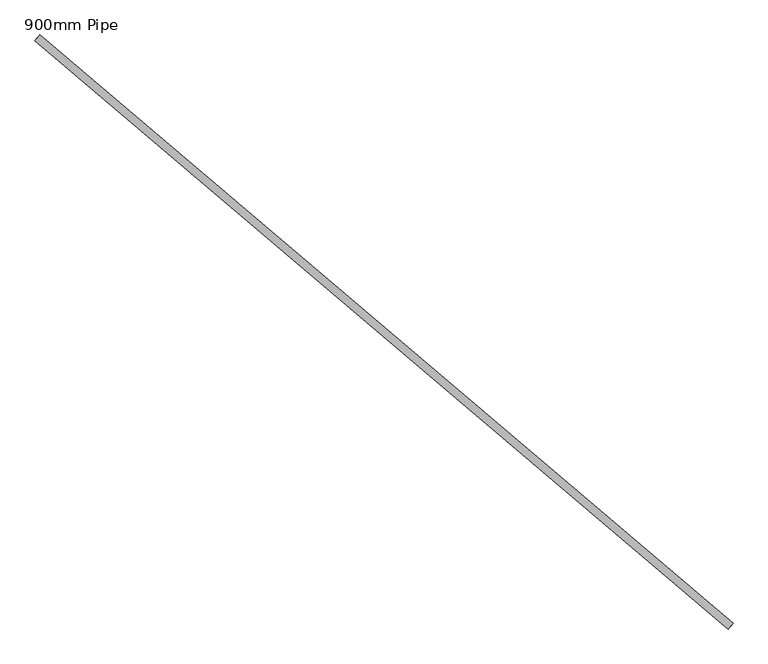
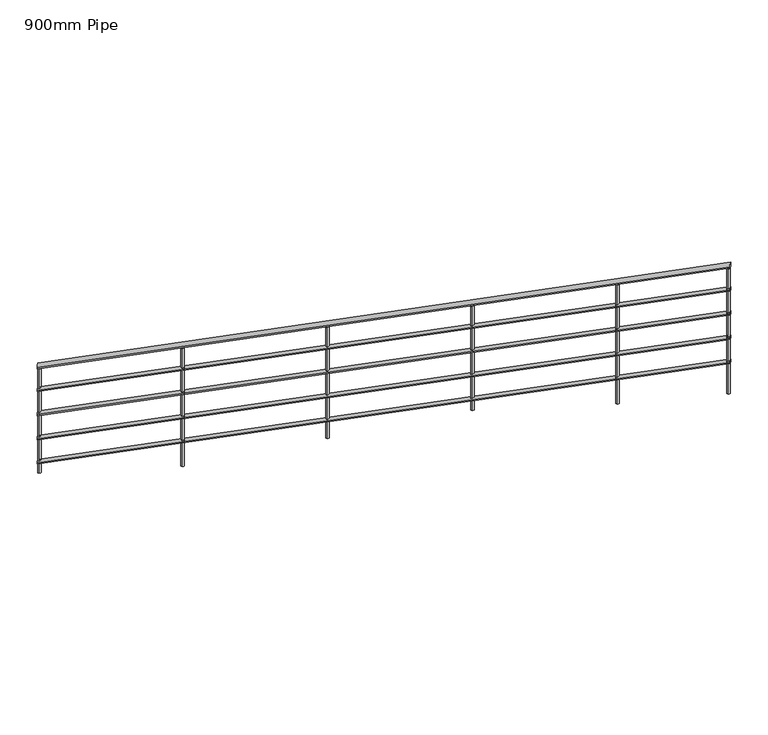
"""IFC4 building model written with IfcOpenShell, lengths in millimetres: railing geometry, 900mm Pipe."""

import ifcopenshell
import ifcopenshell.guid

model = None  # the IFC model being written
_history = None  # IfcOwnerHistory: only IFC2X3 demands one
_inside = {}  # id of a spatial element -> (the spatial element, [elements in it])
_under = {}  # id of a project, library or spatial element -> (it, [spatial elements below it])
_declared = {}  # id of a project -> (the project, [libraries it declares])
_typed = {}  # id of a type object -> (the type object, [elements of that type])
_made_of = {}  # id of a material, layer set ... -> (it, [elements and type objects made of it])


def new_model(schema):
    """Start an empty IFC model of exactly this schema.

    Asked for "IFC4X3", IfcOpenShell would pick the latest addendum, in which some entities
    have other attributes; the version numbers below select the first issue.
    IFC2X3 requires an IfcOwnerHistory on every rooted entity: one is made here for all.
    """
    global model, _history
    if schema == "IFC4X3":
        model = ifcopenshell.file(schema_version=(4, 3, 0, 0))
    else:
        model = ifcopenshell.file(schema=schema)
    _inside.clear()
    _under.clear()
    _declared.clear()
    _typed.clear()
    _made_of.clear()
    _history = None
    if model.schema == "IFC2X3":
        org = make("IfcOrganization", Name="unknown")
        user = make(
            "IfcPersonAndOrganization",
            ThePerson=make("IfcPerson", FamilyName="unknown"),
            TheOrganization=org,
        )
        app = make(
            "IfcApplication",
            ApplicationDeveloper=org,
            Version="unknown",
            ApplicationFullName="unknown",
            ApplicationIdentifier="unknown",
        )
        _history = make(
            "IfcOwnerHistory",
            OwningUser=user,
            OwningApplication=app,
            ChangeAction="ADDED",
            CreationDate=0,
        )
    return model


def make(cls, **values):
    """One entity of the class cls with the attributes given. An attribute that is None is left unset."""
    return model.create_entity(
        cls, **{name: value for name, value in values.items() if value is not None}
    )


def rooted(cls, **values):
    """An entity with a GlobalId (a new one), such as an element, a storey or a relation."""
    return make(cls, GlobalId=ifcopenshell.guid.new(), OwnerHistory=_history, **values)


def si_unit(unit_type, name, prefix=None):
    """IfcSIUnit, for example si_unit("LENGTHUNIT", "METRE", prefix="MILLI")."""
    return make("IfcSIUnit", UnitType=unit_type, Prefix=prefix, Name=name)


def assignment(units):
    """IfcUnitAssignment: the units of a project."""
    return None if units is None else make("IfcUnitAssignment", Units=units)


def point(xyz):
    """IfcCartesianPoint."""
    return None if xyz is None else make("IfcCartesianPoint", Coordinates=xyz)


def direction(xyz):
    """IfcDirection."""
    return None if xyz is None else make("IfcDirection", DirectionRatios=xyz)


def frame(location, z_axis=None, x_axis=None):
    """IfcAxis2Placement3D, a coordinate frame: its origin and axes. An axis left out is left unset."""
    return make(
        "IfcAxis2Placement3D",
        Location=point(location),
        Axis=direction(z_axis),
        RefDirection=direction(x_axis),
    )


def origin():
    """The frame at (0, 0, 0) with its axes left unset."""
    return frame((0.0, 0.0, 0.0))


def place(relative_to, where):
    """IfcLocalPlacement: puts the frame where relative to a parent placement (None: the world)."""
    return make(
        "IfcLocalPlacement", PlacementRelTo=relative_to, RelativePlacement=where
    )


def context(
    kind, dimensions, precision=None, world=None, true_north=None, identifier=None
):
    """IfcGeometricRepresentationContext, for example the 3D "Model" context."""
    return make(
        "IfcGeometricRepresentationContext",
        ContextIdentifier=identifier,
        ContextType=kind,
        CoordinateSpaceDimension=dimensions,
        Precision=precision,
        WorldCoordinateSystem=world,
        TrueNorth=true_north,
    )


def project(units=None, contexts=None):
    """IfcProject with its units and contexts."""
    return rooted(
        "IfcProject",
        Name="project",
        RepresentationContexts=contexts,
        UnitsInContext=assignment(units),
    )


def spatial(cls, under=None, at=None, **own):
    """A site, building, storey or space (cls), placed at a placement, below another one or the project."""
    s = rooted(cls, ObjectPlacement=at, **own)
    if under is not None:
        _under.setdefault(under.id(), (under, []))[1].append(s)
    return s


def circle_curve(where, radius):
    """IfcCircle in the frame where."""
    return make("IfcCircle", Position=where, Radius=radius)


def ellipse_curve(where, semi_axis1, semi_axis2):
    """IfcEllipse in the frame where."""
    return make(
        "IfcEllipse", Position=where, SemiAxis1=semi_axis1, SemiAxis2=semi_axis2
    )


def shape(context_of_items, identifier, shape_type, items):
    """IfcShapeRepresentation: the items that make up one representation, for example the "Body"."""
    return make(
        "IfcShapeRepresentation",
        ContextOfItems=context_of_items,
        RepresentationIdentifier=identifier,
        RepresentationType=shape_type,
        Items=items,
    )


def source(mapping_origin, context_of_items, identifier, shape_type, items):
    """IfcRepresentationMap: a shape defined once, which mapped items show again and again."""
    return make(
        "IfcRepresentationMap",
        MappingOrigin=mapping_origin,
        MappedRepresentation=shape(context_of_items, identifier, shape_type, items),
    )


def transform(
    local_origin,
    x_axis=None,
    y_axis=None,
    z_axis=None,
    scale=None,
    scale2=None,
    scale3=None,
    uniform=True,
):
    """IfcCartesianTransformationOperator3D, or its non-uniform kind. x_axis, y_axis, z_axis: its Axis1, 2, 3."""
    if uniform:
        return make(
            "IfcCartesianTransformationOperator3D",
            Axis1=direction(x_axis),
            Axis2=direction(y_axis),
            LocalOrigin=point(local_origin),
            Scale=scale,
            Axis3=direction(z_axis),
        )
    return make(
        "IfcCartesianTransformationOperator3DnonUniform",
        Axis1=direction(x_axis),
        Axis2=direction(y_axis),
        LocalOrigin=point(local_origin),
        Scale=scale,
        Axis3=direction(z_axis),
        Scale2=scale2,
        Scale3=scale3,
    )


def mapped(mapping_source, mapping_target):
    """IfcMappedItem: shows the shape of a source again, moved by a transform."""
    return make(
        "IfcMappedItem", MappingSource=mapping_source, MappingTarget=mapping_target
    )


def made_of(thing, what):
    """Note that an element or type object is made of a material, layer set ...; save() writes the relation."""
    if what is not None:
        _made_of.setdefault(what.id(), (what, []))[1].append(thing)
    return thing


def element(
    cls,
    number,
    at=None,
    inside=None,
    cuts=None,
    type_object=None,
    material=None,
    context=None,
    identifier="Body",
    shape_type=None,
    held_by="IfcProductDefinitionShape",
    body=None,
    shapes=None,
    **own,
):
    """One element of the class cls, such as IfcWall. Its Tag is "e" and its number.

    at: its placement. inside: the storey or other place that contains it. cuts: it is an
    opening in that element (IfcRelVoidsElement). A single representation is given by context,
    identifier, shape_type and body (its items); several are given by shapes. held_by: the class
    of the entity that holds the representations. save() writes the other relations.
    """
    e = rooted(cls, Tag="e%d" % number, ObjectPlacement=at, **own)
    if body is not None:
        shapes = [shape(context, identifier, shape_type, body)]
    if shapes is not None:
        e.Representation = make(held_by, Representations=shapes)
    if inside is not None:
        _inside.setdefault(inside.id(), (inside, []))[1].append(e)
    if cuts is not None:
        rooted(
            "IfcRelVoidsElement", RelatingBuildingElement=cuts, RelatedOpeningElement=e
        )
    if type_object is not None:
        _typed.setdefault(type_object.id(), (type_object, []))[1].append(e)
    return made_of(e, material)


def aggregate(whole, parts):
    """IfcRelAggregates: a whole, such as a stair, and the parts it consists of."""
    return rooted("IfcRelAggregates", RelatingObject=whole, RelatedObjects=parts)


def save(model, path):
    """Write the relations noted so far, then the file.

    IfcRelAggregates (storeys below a building ...), IfcRelContainedInSpatialStructure (elements
    in a storey), IfcRelDefinesByType, IfcRelAssociatesMaterial and IfcRelDeclares: one each for
    every whole, place, type object, material and project.
    """
    for whole, parts in _under.values():
        aggregate(whole, parts)
    for where, things in _inside.values():
        rooted(
            "IfcRelContainedInSpatialStructure",
            RelatedElements=things,
            RelatingStructure=where,
        )
    for kind, things in _typed.values():
        rooted("IfcRelDefinesByType", RelatedObjects=things, RelatingType=kind)
    for what, things in _made_of.values():
        rooted("IfcRelAssociatesMaterial", RelatedObjects=things, RelatingMaterial=what)
    for by, libraries in _declared.values():
        rooted("IfcRelDeclares", RelatingContext=by, RelatedDefinitions=libraries)
    model.write(path)


def plane_surface(at):
    """IfcPlane: the flat surface through the origin of the frame at, square to its z axis."""
    return make("IfcPlane", Position=at)


def cylinder_surface(at, radius):
    """IfcCylindricalSurface: all points at the distance radius from the z axis of the frame at."""
    return make("IfcCylindricalSurface", Position=at, Radius=radius)


def advanced_brep(points, edges, surfaces, faces):
    """IfcAdvancedBrep: a solid bounded by faces that lie on surfaces and meet in shared edges.

    An edge is (start, end): straight between two places in points (the first is 0);
    or (start, end, curve); or (start, end, curve, False) where it runs against its curve.
    A face is (place in surfaces, loops), or (place, loops, False) where it looks against
    its surface's normal. A loop lists edges by number (the first is 1), with a minus sign
    where the edge is run from its end to its start. The first loop is the outer one.
    """
    corners = [point(p) for p in points]
    vertices = [make("IfcVertexPoint", VertexGeometry=c) for c in corners]
    made = []
    for start, end, *more in edges:
        made.append(
            make(
                "IfcEdgeCurve",
                EdgeStart=vertices[start],
                EdgeEnd=vertices[end],
                EdgeGeometry=more[0] if more else make("IfcPolyline", Points=[corners[start], corners[end]]),
                SameSense=more[1] if len(more) > 1 else True,
            )
        )
    hull = []
    for where, loops, *sense in faces:
        bounds = []
        for j, loop in enumerate(loops):
            ring = [make("IfcOrientedEdge", EdgeElement=made[abs(k) - 1], Orientation=k > 0) for k in loop]
            bounds.append(
                make(
                    "IfcFaceOuterBound" if j == 0 else "IfcFaceBound",
                    Bound=make("IfcEdgeLoop", EdgeList=ring),
                    Orientation=True,
                )
            )
        hull.append(make("IfcAdvancedFace", Bounds=bounds, FaceSurface=surfaces[where], SameSense=sense[0] if sense else True))
    return make("IfcAdvancedBrep", Outer=make("IfcClosedShell", CfsFaces=hull))


def railing_900mm_pipe_515d095b(model_context):
    return source(origin(), model_context, "Body", "AdvancedBrep", [
        advanced_brep(
        [(913965.1870936, -4818.1169919, 7058.4124918), (913939.2931186, -4848.6047281, 7058.4124918), (917607.2292408, -7911.391869, 8492.765433), (917581.3352658, -7941.8796051, 8492.765433)],
        [
            (0, 1, ellipse_curve(frame((913952.2401061, -4833.36086, 7058.4124918), z_axis=(-0.7621934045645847, 0.6473493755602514, 0.0), x_axis=(0.0, 0.0, -1.0)), 20.8816259, 20.0)),
            (1, 0, ellipse_curve(frame((913952.2401061, -4833.36086, 7058.4124918), z_axis=(-0.7621934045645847, 0.6473493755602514, 0.0), x_axis=(0.0, 0.0, -1.0)), 20.8816259, 20.0)),
            (2, 3, ellipse_curve(frame((917594.2822533, -7926.6357371, 8492.765433), z_axis=(0.7621934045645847, -0.6473493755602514, 0.0), x_axis=(0.0, 0.0, -1.0)), 20.8816259, 20.0)),
            (3, 2, ellipse_curve(frame((917594.2822533, -7926.6357371, 8492.765433), z_axis=(0.7621934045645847, -0.6473493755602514, 0.0), x_axis=(0.0, 0.0, -1.0)), 20.8816259, 20.0)),
            (0, 2),
            (3, 1),
        ],
        [
            plane_surface(frame((913952.2401061, -4833.36086, 7079.2941176), z_axis=(-0.7621934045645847, 0.6473493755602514, 0.0), x_axis=(0.6473493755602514, 0.7621934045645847, 0.0))),
            plane_surface(frame((917594.2822533, -7926.6357371, 8513.6470588), z_axis=(0.7621934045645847, -0.6473493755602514, 0.0), x_axis=(0.6473493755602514, 0.7621934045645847, 0.0))),
            cylinder_surface(frame((913956.6227594, -4837.0831539, 7060.1385211), z_axis=(-0.7300134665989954, 0.620018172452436, -0.2875027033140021), x_axis=(-0.6473493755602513, -0.7621934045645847, 0.0)), 20.0),
        ],
        [
            (0, [[1, 2]]),
            (1, [[3, 4]]),
            (2, [[-1, 5, -4, 6]]),
            (2, [[-2, -6, -3, -5]]),
        ],
    ),
        advanced_brep(
        [(913961.9503467, -4821.9279589, 6863.6328982), (913942.5298654, -4844.7937611, 6863.6328982), (917603.9924939, -7915.202836, 8297.9858394), (917584.5720127, -7938.0686381, 8297.9858394)],
        [
            (0, 1, ellipse_curve(frame((913952.2401061, -4833.36086, 6863.6328982), z_axis=(-0.7621934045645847, 0.6473493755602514, 0.0), x_axis=(0.0, 0.0, -1.0)), 15.6612194, 15.0)),
            (1, 0, ellipse_curve(frame((913952.2401061, -4833.36086, 6863.6328982), z_axis=(-0.7621934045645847, 0.6473493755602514, 0.0), x_axis=(0.0, 0.0, -1.0)), 15.6612194, 15.0)),
            (2, 3, ellipse_curve(frame((917594.2822533, -7926.6357371, 8297.9858394), z_axis=(0.7621934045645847, -0.6473493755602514, 0.0), x_axis=(0.0, 0.0, -1.0)), 15.6612194, 15.0)),
            (3, 2, ellipse_curve(frame((917594.2822533, -7926.6357371, 8297.9858394), z_axis=(0.7621934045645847, -0.6473493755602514, 0.0), x_axis=(0.0, 0.0, -1.0)), 15.6612194, 15.0)),
            (0, 2),
            (3, 1),
        ],
        [
            plane_surface(frame((913952.2401061, -4833.36086, 6879.2941176), z_axis=(-0.7621934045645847, 0.6473493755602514, 0.0), x_axis=(0.6473493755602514, 0.7621934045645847, 0.0))),
            plane_surface(frame((917594.2822533, -7926.6357371, 8313.6470588), z_axis=(0.7621934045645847, -0.6473493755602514, 0.0), x_axis=(0.6473493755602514, 0.7621934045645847, 0.0))),
            cylinder_surface(frame((913955.527096, -4836.1525804, 6864.9274203), z_axis=(-0.7300134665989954, 0.620018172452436, -0.2875027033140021), x_axis=(-0.6473493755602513, -0.7621934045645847, 0.0)), 15.0),
        ],
        [
            (0, [[1, 2]]),
            (1, [[3, 4]]),
            (2, [[-1, 5, -4, 6]]),
            (2, [[-2, -6, -3, -5]]),
        ],
    ),
        advanced_brep(
        [(913961.9503467, -4821.9279589, 6663.6328982), (913942.5298654, -4844.7937611, 6663.6328982), (917603.9924939, -7915.202836, 8097.9858394), (917584.5720127, -7938.0686381, 8097.9858394)],
        [
            (0, 1, ellipse_curve(frame((913952.2401061, -4833.36086, 6663.6328982), z_axis=(-0.7621934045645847, 0.6473493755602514, 0.0), x_axis=(0.0, 0.0, -1.0)), 15.6612194, 15.0)),
            (1, 0, ellipse_curve(frame((913952.2401061, -4833.36086, 6663.6328982), z_axis=(-0.7621934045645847, 0.6473493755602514, 0.0), x_axis=(0.0, 0.0, -1.0)), 15.6612194, 15.0)),
            (2, 3, ellipse_curve(frame((917594.2822533, -7926.6357371, 8097.9858394), z_axis=(0.7621934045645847, -0.6473493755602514, 0.0), x_axis=(0.0, 0.0, -1.0)), 15.6612194, 15.0)),
            (3, 2, ellipse_curve(frame((917594.2822533, -7926.6357371, 8097.9858394), z_axis=(0.7621934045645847, -0.6473493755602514, 0.0), x_axis=(0.0, 0.0, -1.0)), 15.6612194, 15.0)),
            (0, 2),
            (3, 1),
        ],
        [
            plane_surface(frame((913952.2401061, -4833.36086, 6679.2941176), z_axis=(-0.7621934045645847, 0.6473493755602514, 0.0), x_axis=(0.6473493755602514, 0.7621934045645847, 0.0))),
            plane_surface(frame((917594.2822533, -7926.6357371, 8113.6470588), z_axis=(0.7621934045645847, -0.6473493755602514, 0.0), x_axis=(0.6473493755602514, 0.7621934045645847, 0.0))),
            cylinder_surface(frame((913955.527096, -4836.1525804, 6664.9274203), z_axis=(-0.7300134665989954, 0.620018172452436, -0.2875027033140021), x_axis=(-0.6473493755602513, -0.7621934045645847, 0.0)), 15.0),
        ],
        [
            (0, [[1, 2]]),
            (1, [[3, 4]]),
            (2, [[-1, 5, -4, 6]]),
            (2, [[-2, -6, -3, -5]]),
        ],
    ),
        advanced_brep(
        [(913961.9503467, -4821.9279589, 6463.6328982), (913942.5298654, -4844.7937611, 6463.6328982), (917603.9924939, -7915.202836, 7897.9858394), (917584.5720127, -7938.0686381, 7897.9858394)],
        [
            (0, 1, ellipse_curve(frame((913952.2401061, -4833.36086, 6463.6328982), z_axis=(-0.7621934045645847, 0.6473493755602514, 0.0), x_axis=(0.0, 0.0, -1.0)), 15.6612194, 15.0)),
            (1, 0, ellipse_curve(frame((913952.2401061, -4833.36086, 6463.6328982), z_axis=(-0.7621934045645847, 0.6473493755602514, 0.0), x_axis=(0.0, 0.0, -1.0)), 15.6612194, 15.0)),
            (2, 3, ellipse_curve(frame((917594.2822533, -7926.6357371, 7897.9858394), z_axis=(0.7621934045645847, -0.6473493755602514, 0.0), x_axis=(0.0, 0.0, -1.0)), 15.6612194, 15.0)),
            (3, 2, ellipse_curve(frame((917594.2822533, -7926.6357371, 7897.9858394), z_axis=(0.7621934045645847, -0.6473493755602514, 0.0), x_axis=(0.0, 0.0, -1.0)), 15.6612194, 15.0)),
            (0, 2),
            (3, 1),
        ],
        [
            plane_surface(frame((913952.2401061, -4833.36086, 6479.2941176), z_axis=(-0.7621934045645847, 0.6473493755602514, 0.0), x_axis=(0.6473493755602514, 0.7621934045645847, 0.0))),
            plane_surface(frame((917594.2822533, -7926.6357371, 7913.6470588), z_axis=(0.7621934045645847, -0.6473493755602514, 0.0), x_axis=(0.6473493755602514, 0.7621934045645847, 0.0))),
            cylinder_surface(frame((913955.527096, -4836.1525804, 6464.9274203), z_axis=(-0.7300134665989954, 0.620018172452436, -0.2875027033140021), x_axis=(-0.6473493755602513, -0.7621934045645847, 0.0)), 15.0),
        ],
        [
            (0, [[1, 2]]),
            (1, [[3, 4]]),
            (2, [[-1, 5, -4, 6]]),
            (2, [[-2, -6, -3, -5]]),
        ],
    ),
        advanced_brep(
        [(913961.9503467, -4821.9279589, 6263.6328982), (913942.5298654, -4844.7937611, 6263.6328982), (917603.9924939, -7915.202836, 7697.9858394), (917584.5720127, -7938.0686381, 7697.9858394)],
        [
            (0, 1, ellipse_curve(frame((913952.2401061, -4833.36086, 6263.6328982), z_axis=(-0.7621934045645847, 0.6473493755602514, 0.0), x_axis=(0.0, 0.0, -1.0)), 15.6612194, 15.0)),
            (1, 0, ellipse_curve(frame((913952.2401061, -4833.36086, 6263.6328982), z_axis=(-0.7621934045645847, 0.6473493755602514, 0.0), x_axis=(0.0, 0.0, -1.0)), 15.6612194, 15.0)),
            (2, 3, ellipse_curve(frame((917594.2822533, -7926.6357371, 7697.9858394), z_axis=(0.7621934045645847, -0.6473493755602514, 0.0), x_axis=(0.0, 0.0, -1.0)), 15.6612194, 15.0)),
            (3, 2, ellipse_curve(frame((917594.2822533, -7926.6357371, 7697.9858394), z_axis=(0.7621934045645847, -0.6473493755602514, 0.0), x_axis=(0.0, 0.0, -1.0)), 15.6612194, 15.0)),
            (0, 2),
            (3, 1),
        ],
        [
            plane_surface(frame((913952.2401061, -4833.36086, 6279.2941176), z_axis=(-0.7621934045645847, 0.6473493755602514, 0.0), x_axis=(0.6473493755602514, 0.7621934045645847, 0.0))),
            plane_surface(frame((917594.2822533, -7926.6357371, 7713.6470588), z_axis=(0.7621934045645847, -0.6473493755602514, 0.0), x_axis=(0.6473493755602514, 0.7621934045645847, 0.0))),
            cylinder_surface(frame((913955.527096, -4836.1525804, 6264.9274203), z_axis=(-0.7300134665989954, 0.620018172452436, -0.2875027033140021), x_axis=(-0.6473493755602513, -0.7621934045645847, 0.0)), 15.0),
        ],
        [
            (0, [[1, 2]]),
            (1, [[3, 4]]),
            (2, [[-1, 5, -4, 6]]),
            (2, [[-2, -6, -3, -5]]),
        ],
    ),
        advanced_brep(
        [(916992.9218571, -7432.2857798, 8238.2356435), (916992.9218571, -7432.2857798, 7255.0588235), (917009.1055915, -7413.2309447, 7255.0588235), (917009.1055915, -7413.2309447, 8238.2356435)],
        [
            (0, 1),
            (1, 2, circle_curve(frame((917001.0137243, -7422.7583623, 7255.0588235), z_axis=(0.0, 0.0, 1.0), x_axis=(0.6473493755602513, 0.7621934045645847, 0.0)), 12.5)),
            (2, 3),
            (3, 0, ellipse_curve(frame((917001.0137243, -7422.7583623, 8238.2356435), z_axis=(0.21913266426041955, -0.18611469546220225, -0.957779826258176), x_axis=(0.7300134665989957, -0.6200181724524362, 0.28750270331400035)), 13.0510162, 12.5)),
            (0, 3, ellipse_curve(frame((917001.0137243, -7422.7583623, 8238.2356435), z_axis=(0.21913266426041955, -0.18611469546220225, -0.957779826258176), x_axis=(0.7300134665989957, -0.6200181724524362, 0.28750270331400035)), 13.0510162, 12.5)),
            (2, 1, circle_curve(frame((917001.0137243, -7422.7583623, 7255.0588235), z_axis=(0.0, 0.0, 1.0), x_axis=(0.6473493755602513, 0.7621934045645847, 0.0)), 12.5)),
        ],
        [
            cylinder_surface(frame((917001.0137243, -7422.7583623, 7155.0588235), z_axis=(0.0, 0.0, 1.0), x_axis=(0.6473493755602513, 0.7621934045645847, 0.0)), 12.5),
            plane_surface(frame((917036.2522938, -7419.8872615, 8245.7400483), z_axis=(-0.21913266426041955, 0.18611469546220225, 0.957779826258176), x_axis=(-0.6473493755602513, -0.7621934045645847, 0.0))),
            plane_surface(frame((916998.1426236, -7387.5197928, 7255.0588235), z_axis=(0.0, 0.0, -1.0), x_axis=(-0.6473493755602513, -0.7621934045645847, 0.0))),
        ],
        [
            (0, [[1, 2, 3, 4]]),
            (0, [[-1, 5, -3, 6]]),
            (1, [[-4, -5]]),
            (2, [[-2, -6]]),
        ],
    ),
        advanced_brep(
        [(916230.7284526, -6784.9364043, 7938.0594491), (916230.7284526, -6784.9364043, 7075.7647059), (916246.912187, -6765.8815691, 7075.7647059), (916246.912187, -6765.8815691, 7938.0594491)],
        [
            (0, 1),
            (1, 2, circle_curve(frame((916238.8203198, -6775.4089867, 7075.7647059), z_axis=(0.0, 0.0, 1.0), x_axis=(0.6473493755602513, 0.7621934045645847, 0.0)), 12.5)),
            (2, 3),
            (3, 0, ellipse_curve(frame((916238.8203198, -6775.4089867, 7938.0594491), z_axis=(0.21913266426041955, -0.18611469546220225, -0.957779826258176), x_axis=(0.7300134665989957, -0.6200181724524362, 0.28750270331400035)), 13.0510162, 12.5)),
            (0, 3, ellipse_curve(frame((916238.8203198, -6775.4089867, 7938.0594491), z_axis=(0.21913266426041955, -0.18611469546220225, -0.957779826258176), x_axis=(0.7300134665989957, -0.6200181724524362, 0.28750270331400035)), 13.0510162, 12.5)),
            (2, 1, circle_curve(frame((916238.8203198, -6775.4089867, 7075.7647059), z_axis=(0.0, 0.0, 1.0), x_axis=(0.6473493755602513, 0.7621934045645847, 0.0)), 12.5)),
        ],
        [
            cylinder_surface(frame((916238.8203198, -6775.4089867, 6975.7647059), z_axis=(0.0, 0.0, 1.0), x_axis=(0.6473493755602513, 0.7621934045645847, 0.0)), 12.5),
            plane_surface(frame((916274.0588893, -6772.537886, 7945.5638539), z_axis=(-0.21913266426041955, 0.18611469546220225, 0.957779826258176), x_axis=(-0.6473493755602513, -0.7621934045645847, 0.0))),
            plane_surface(frame((916235.949219, -6740.1704172, 7075.7647059), z_axis=(0.0, 0.0, -1.0), x_axis=(-0.6473493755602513, -0.7621934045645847, 0.0))),
        ],
        [
            (0, [[1, 2, 3, 4]]),
            (0, [[-1, 5, -3, 6]]),
            (1, [[-4, -5]]),
            (2, [[-2, -6]]),
        ],
    ),
        advanced_brep(
        [(915468.535048, -6137.5870287, 7637.8832547), (915468.535048, -6137.5870287, 6717.1764706), (915484.7187824, -6118.5321936, 6717.1764706), (915484.7187824, -6118.5321936, 7637.8832547)],
        [
            (0, 1),
            (1, 2, circle_curve(frame((915476.6269152, -6128.0596111, 6717.1764706), z_axis=(0.0, 0.0, 1.0), x_axis=(0.6473493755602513, 0.7621934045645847, 0.0)), 12.5)),
            (2, 3),
            (3, 0, ellipse_curve(frame((915476.6269152, -6128.0596111, 7637.8832547), z_axis=(0.21913266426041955, -0.18611469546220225, -0.957779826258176), x_axis=(0.7300134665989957, -0.6200181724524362, 0.28750270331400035)), 13.0510162, 12.5)),
            (0, 3, ellipse_curve(frame((915476.6269152, -6128.0596111, 7637.8832547), z_axis=(0.21913266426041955, -0.18611469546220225, -0.957779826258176), x_axis=(0.7300134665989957, -0.6200181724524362, 0.28750270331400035)), 13.0510162, 12.5)),
            (2, 1, circle_curve(frame((915476.6269152, -6128.0596111, 6717.1764706), z_axis=(0.0, 0.0, 1.0), x_axis=(0.6473493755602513, 0.7621934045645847, 0.0)), 12.5)),
        ],
        [
            cylinder_surface(frame((915476.6269152, -6128.0596111, 6617.1764706), z_axis=(0.0, 0.0, 1.0), x_axis=(0.6473493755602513, 0.7621934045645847, 0.0)), 12.5),
            plane_surface(frame((915511.8654847, -6125.1885104, 7645.3876596), z_axis=(-0.21913266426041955, 0.18611469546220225, 0.957779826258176), x_axis=(-0.6473493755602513, -0.7621934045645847, 0.0))),
            plane_surface(frame((915473.7558145, -6092.8210416, 6717.1764706), z_axis=(0.0, 0.0, -1.0), x_axis=(-0.6473493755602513, -0.7621934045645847, 0.0))),
        ],
        [
            (0, [[1, 2, 3, 4]]),
            (0, [[-1, 5, -3, 6]]),
            (1, [[-4, -5]]),
            (2, [[-2, -6]]),
        ],
    ),
        advanced_brep(
        [(914706.3416434, -5490.2376531, 7337.7070603), (914706.3416434, -5490.2376531, 6358.5882353), (914722.5253778, -5471.182818, 6358.5882353), (914722.5253778, -5471.182818, 7337.7070603)],
        [
            (0, 1),
            (1, 2, circle_curve(frame((914714.4335106, -5480.7102356, 6358.5882353), z_axis=(0.0, 0.0, 1.0), x_axis=(0.6473493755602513, 0.7621934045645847, 0.0)), 12.5)),
            (2, 3),
            (3, 0, ellipse_curve(frame((914714.4335106, -5480.7102356, 7337.7070603), z_axis=(0.21913266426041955, -0.18611469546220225, -0.957779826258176), x_axis=(0.7300134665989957, -0.6200181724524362, 0.28750270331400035)), 13.0510162, 12.5)),
            (0, 3, ellipse_curve(frame((914714.4335106, -5480.7102356, 7337.7070603), z_axis=(0.21913266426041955, -0.18611469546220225, -0.957779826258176), x_axis=(0.7300134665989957, -0.6200181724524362, 0.28750270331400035)), 13.0510162, 12.5)),
            (2, 1, circle_curve(frame((914714.4335106, -5480.7102356, 6358.5882353), z_axis=(0.0, 0.0, 1.0), x_axis=(0.6473493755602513, 0.7621934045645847, 0.0)), 12.5)),
        ],
        [
            cylinder_surface(frame((914714.4335106, -5480.7102356, 6258.5882353), z_axis=(0.0, 0.0, 1.0), x_axis=(0.6473493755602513, 0.7621934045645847, 0.0)), 12.5),
            plane_surface(frame((914749.6720801, -5477.8391349, 7345.2114652), z_axis=(-0.21913266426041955, 0.18611469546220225, 0.957779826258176), x_axis=(-0.6473493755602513, -0.7621934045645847, 0.0))),
            plane_surface(frame((914711.5624099, -5445.4716661, 6358.5882353), z_axis=(0.0, 0.0, -1.0), x_axis=(-0.6473493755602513, -0.7621934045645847, 0.0))),
        ],
        [
            (0, [[1, 2, 3, 4]]),
            (0, [[-1, 5, -3, 6]]),
            (1, [[-4, -5]]),
            (2, [[-2, -6]]),
        ],
    ),
        advanced_brep(
        [(917576.6629686, -7928.0712874, 8468.1316046), (917576.6629686, -7928.0712874, 7434.3529412), (917592.8467029, -7909.0164523, 7434.3529412), (917592.8467029, -7909.0164523, 8468.1316046)],
        [
            (0, 1),
            (1, 2, circle_curve(frame((917584.7548358, -7918.5438699, 7434.3529412), z_axis=(0.0, 0.0, 1.0), x_axis=(0.6473493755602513, 0.7621934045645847, 0.0)), 12.5)),
            (2, 3),
            (3, 0, ellipse_curve(frame((917584.7548358, -7918.5438699, 8468.1316046), z_axis=(0.21913266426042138, -0.1861146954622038, -0.9577798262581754), x_axis=(0.730013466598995, -0.6200181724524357, 0.28750270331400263)), 13.0510162, 12.5)),
            (0, 3, ellipse_curve(frame((917584.7548358, -7918.5438699, 8468.1316046), z_axis=(0.21913266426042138, -0.1861146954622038, -0.9577798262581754), x_axis=(0.730013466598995, -0.6200181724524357, 0.28750270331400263)), 13.0510162, 12.5)),
            (2, 1, circle_curve(frame((917584.7548358, -7918.5438699, 7434.3529412), z_axis=(0.0, 0.0, 1.0), x_axis=(0.6473493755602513, 0.7621934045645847, 0.0)), 12.5)),
        ],
        [
            cylinder_surface(frame((917584.7548358, -7918.5438699, 7334.3529412), z_axis=(0.0, 0.0, 1.0), x_axis=(0.6473493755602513, 0.7621934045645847, 0.0)), 12.5),
            plane_surface(frame((917619.9934053, -7915.6727691, 8475.6360095), z_axis=(-0.21913266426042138, 0.1861146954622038, 0.9577798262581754), x_axis=(-0.6473493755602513, -0.7621934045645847, 0.0))),
            plane_surface(frame((917581.883735, -7883.3053004, 7434.3529412), z_axis=(0.0, 0.0, -1.0), x_axis=(-0.6473493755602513, -0.7621934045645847, 0.0))),
        ],
        [
            (0, [[1, 2, 3, 4]]),
            (0, [[-1, 5, -3, 6]]),
            (1, [[-4, -5]]),
            (2, [[-2, -6]]),
        ],
    ),
        advanced_brep(
        [(913953.6756564, -4850.9801448, 7041.2830683), (913953.6756564, -4850.9801448, 6179.2941176), (913969.8593908, -4831.9253097, 6179.2941176), (913969.8593908, -4831.9253097, 7041.2830683)],
        [
            (0, 1),
            (1, 2, circle_curve(frame((913961.7675236, -4841.4527272, 6179.2941176), z_axis=(0.0, 0.0, 1.0), x_axis=(0.6473493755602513, 0.7621934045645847, 0.0)), 12.5)),
            (2, 3),
            (3, 0, ellipse_curve(frame((913961.7675236, -4841.4527272, 7041.2830683), z_axis=(0.21913266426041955, -0.18611469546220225, -0.957779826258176), x_axis=(0.7300134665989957, -0.6200181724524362, 0.28750270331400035)), 13.0510162, 12.5)),
            (0, 3, ellipse_curve(frame((913961.7675236, -4841.4527272, 7041.2830683), z_axis=(0.21913266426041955, -0.18611469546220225, -0.957779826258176), x_axis=(0.7300134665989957, -0.6200181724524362, 0.28750270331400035)), 13.0510162, 12.5)),
            (2, 1, circle_curve(frame((913961.7675236, -4841.4527272, 6179.2941176), z_axis=(0.0, 0.0, 1.0), x_axis=(0.6473493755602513, 0.7621934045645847, 0.0)), 12.5)),
        ],
        [
            cylinder_surface(frame((913961.7675236, -4841.4527272, 6079.2941176), z_axis=(0.0, 0.0, 1.0), x_axis=(0.6473493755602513, 0.7621934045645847, 0.0)), 12.5),
            plane_surface(frame((913997.0060931, -4838.5816265, 7048.7874732), z_axis=(-0.21913266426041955, 0.18611469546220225, 0.957779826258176), x_axis=(-0.6473493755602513, -0.7621934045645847, 0.0))),
            plane_surface(frame((913958.8964229, -4806.2141577, 6179.2941176), z_axis=(0.0, 0.0, -1.0), x_axis=(-0.6473493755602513, -0.7621934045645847, 0.0))),
        ],
        [
            (0, [[1, 2, 3, 4]]),
            (0, [[-1, 5, -3, 6]]),
            (1, [[-4, -5]]),
            (2, [[-2, -6]]),
        ],
    ),
    ])


if __name__ == "__main__":
    model = new_model("IFC4")
    model_context = context("Model", 3, world=origin())
    ifc_project = project(units=[si_unit("LENGTHUNIT", "METRE", prefix="MILLI")], contexts=[model_context])
    site = spatial("IfcSite", under=ifc_project)
    building = spatial("IfcBuilding", under=site)
    placement = place(None, origin())
    railing_900mm_pipe_shape = railing_900mm_pipe_515d095b(model_context)
    element("IfcRailing", 1, ObjectType="900mm Pipe", at=placement, inside=building, context=model_context, shape_type="MappedRepresentation", body=[
        mapped(railing_900mm_pipe_shape, transform((0.0, 0.0, 0.0), x_axis=(1.0, 0.0, 0.0), y_axis=(0.0, 1.0, 0.0), z_axis=(0.0, 0.0, 1.0))),
    ])
    save(model, "model.ifc")
